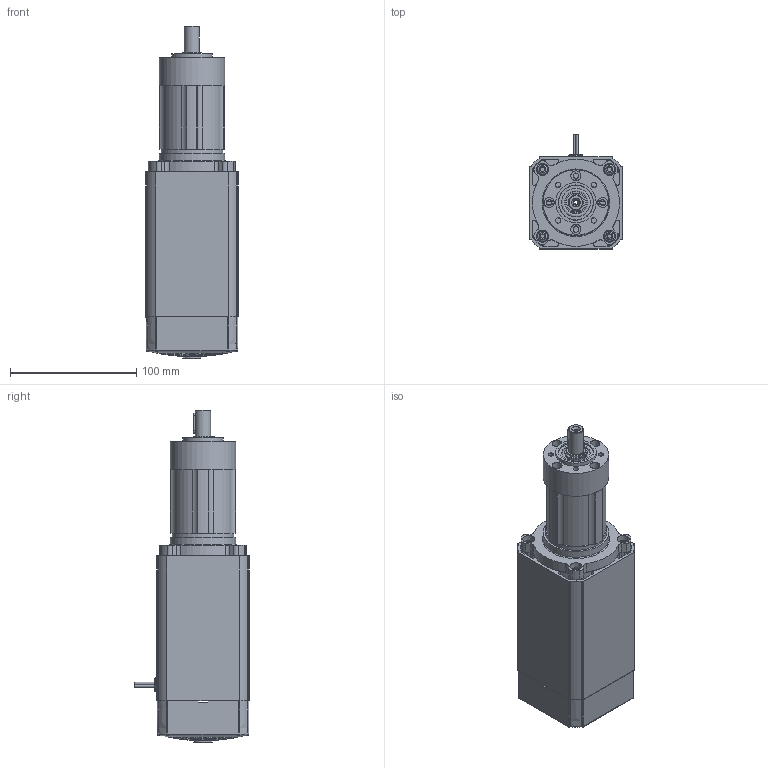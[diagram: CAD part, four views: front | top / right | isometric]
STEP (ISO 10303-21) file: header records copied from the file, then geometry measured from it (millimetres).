
FILE_DESCRIPTION (( 'STEP AP214' ), '1' );
FILE_NAME ('AC6540FC-PL5200iP_3S.STEP', '2014-05-06T12:24:43', ( '' ), ( '' ), 'SwSTEP 2.0', 'SolidWorks 2014', '' );
FILE_SCHEMA (( 'AUTOMOTIVE_DESIGN' ));
Length unit declared in the file: inch
Products named in the file (1): AC6540FC-PL5200iP_3S
Bounding box: 73.36 x 90.72 x 263.35 mm (x, y, z)
Surface area: 124949.2 mm2 (no closed solid volume)
Topology: 0 solids, 51 shells, 894 faces, 3850 edges, 2942 vertices
Faces by surface type: plane 565, cylinder 231, bspline 71, torus 14, cone 12, sphere 1
Full cylindrical faces by diameter (mm): 1.5 x2, 1.905 x4, 3.3 x1, 4.166 x4, 4.2 x4, 4.3 x1, 8 x4, 9.652 x4, 11.112 x1, 11.5 x1, 12 x1, 16.294 x1, 17.216 x1, 18 x1, 22.784 x1, 28 x1, 32 x1, 48.743 x1, 52 x1, 52.07 x1
Entity records: 56090 total; most frequent: CARTESIAN_POINT 14075, DIRECTION 6455, ORIENTED_EDGE 5475, EDGE_CURVE 3774, VERTEX_POINT 2933, AXIS2_PLACEMENT_3D 2418, LINE 1619, VECTOR 1619
